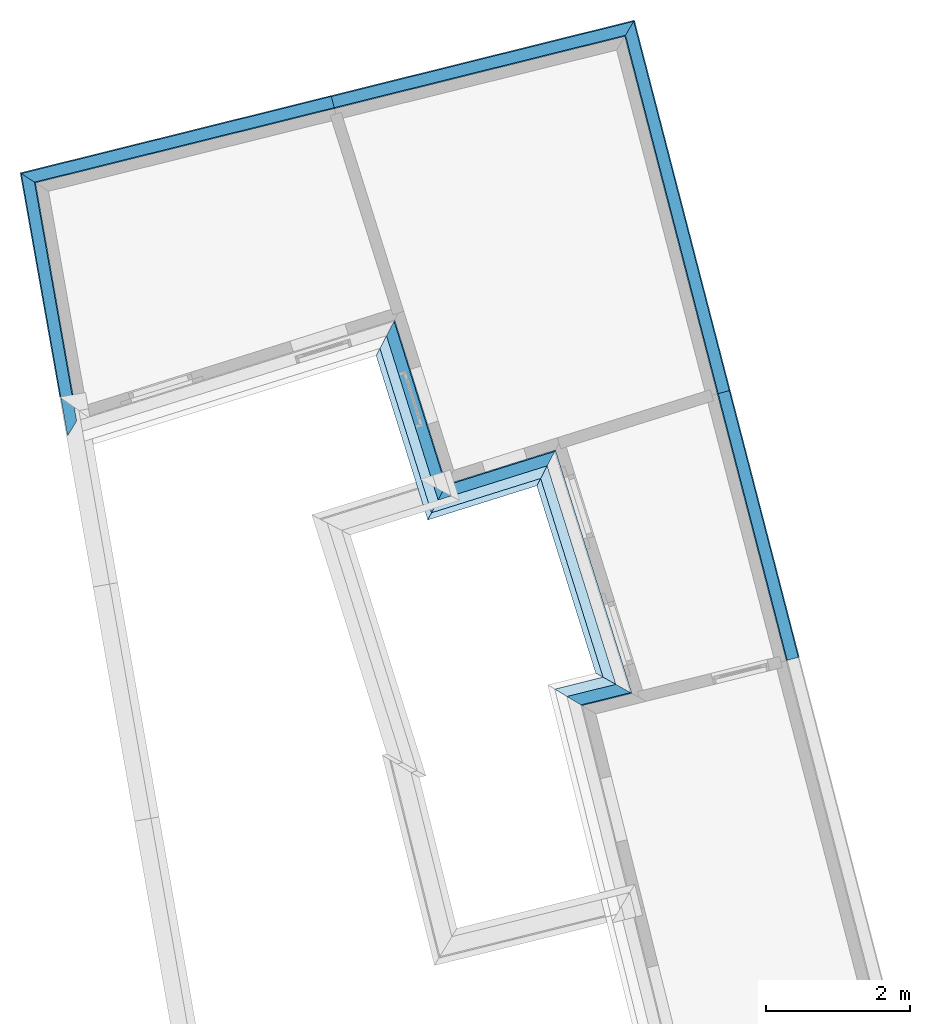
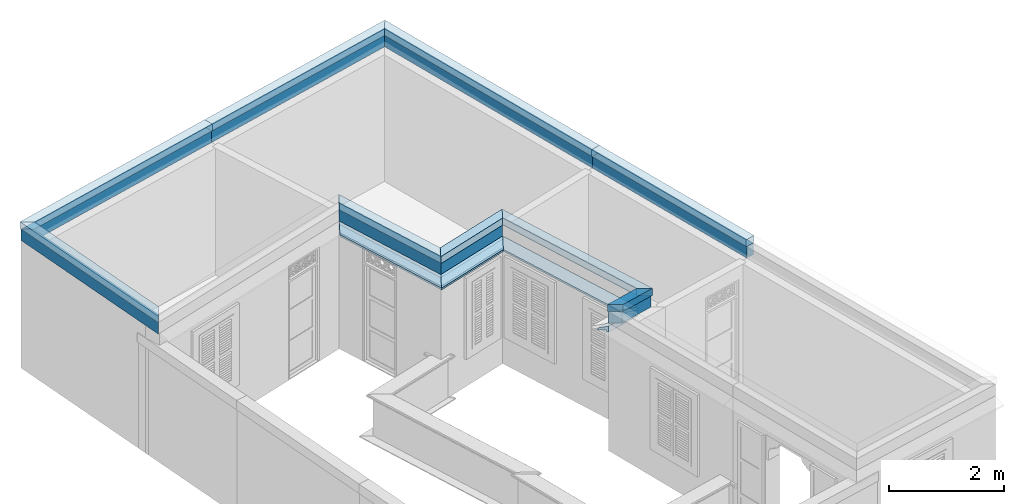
# One storey, part 12 of 13: 24 roofs.
"""IFC4 building model written with IfcOpenShell, lengths in metres."""

from ifc_helpers import new_model, si_unit, frame, origin_with_axes, place, context, subcontext, project, spatial, polyline, outline, extrude, clip, halfspace, material_profile, profile_set, profile_usage, type_object, element, save


model = new_model("IFC4")

# Units and contexts
model_context = context("Model", 3, world=origin_with_axes())
body_context = subcontext(model_context, "Body", "Model", "MODEL_VIEW")
ifc_project = project(units=[si_unit("PLANEANGLEUNIT", "RADIAN"), si_unit("MASSUNIT", "GRAM", prefix="KILO"), si_unit("FORCEUNIT", "NEWTON", prefix="KILO"), si_unit("LENGTHUNIT", "METRE"), si_unit("AREAUNIT", "SQUARE_METRE"), si_unit("VOLUMEUNIT", "CUBIC_METRE")], contexts=[model_context, model_context])

# Site, building, storey
site_placement = place(None, origin_with_axes())
site = spatial("IfcSite", under=ifc_project, at=site_placement, Name="Site plot-0", CompositionType="ELEMENT")
building_placement = place(None, origin_with_axes())
building = spatial("IfcBuilding", under=site, at=building_placement, Name="Building plot-0", CompositionType="ELEMENT")
storey_placement = place(None, frame((0.0, 0.0, 3.6), z_axis=(0.0, 0.0, 1.0), x_axis=(1.0, 0.0, 0.0)))
storey = spatial("IfcBuildingStorey", under=building, at=storey_placement, Name="plot-0 1", CompositionType="ELEMENT", Elevation=3.6)

# Roofs
ifc_material_profile_1 = material_profile(None, outline(polyline([(0.25, 0.0), (0.25, 0.245), (0.09, 0.245), (0.09, 0.0), (0.25, 0.0)])))
ifc_profile_set_1 = profile_set([ifc_material_profile_1])
ifc_profile_usage_1 = profile_usage(ifc_profile_set_1)
roof_type_1 = type_object("IfcRoofType", Name="roofline_0", PredefinedType="FREEFORM", material=ifc_profile_set_1)
roof_1_placement = place(storey_placement, frame((8.20839688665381, 11.4041812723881, 2.7), z_axis=(0.250522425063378, -0.968110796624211, 0.0), x_axis=(0.968110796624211, 0.250522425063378, 0.0)))
element("IfcRoof", 1, at=roof_1_placement, inside=storey, type_object=roof_type_1, material=ifc_profile_usage_1, Name="roofline_0", context=body_context, shape_type="Clipping", body=[
    clip(clip(extrude(outline(polyline([(0.25, 0.0), (0.25, 0.245), (0.09, 0.245), (0.09, 0.0), (0.25, 0.0)])), origin_with_axes(), (0.0, 0.0, 1.0), 5.82113603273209), halfspace(frame((0.0, 0.0, 4.82113603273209), z_axis=(5.48988278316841e-15, 0.0, -1.0), x_axis=(0.0, 1.0, 0.0)), True)), halfspace(frame((0.0, 0.0, 1.0), z_axis=(-2.83276944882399e-16, 0.0, -1.0), x_axis=(0.0, 1.0, 0.0)), False)),
])
ifc_profile_usage_2 = profile_usage(ifc_profile_set_1)
roof_2_placement = place(storey_placement, frame((6.94477119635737, 16.2872957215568, 2.7), z_axis=(0.250522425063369, -0.968110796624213, 0.0), x_axis=(0.968110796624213, 0.250522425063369, 0.0)))
element("IfcRoof", 2, at=roof_2_placement, inside=storey, type_object=roof_type_1, material=ifc_profile_usage_2, Name="roofline_0", context=body_context, shape_type="Clipping", body=[
    clip(clip(extrude(outline(polyline([(0.25, 0.0), (0.25, 0.245), (0.09, 0.245), (0.09, 0.0), (0.25, 0.0)])), origin_with_axes(), (0.0, 0.0, 1.0), 7.04396239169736), halfspace(frame((0.0, 0.0, 6.04396239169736), z_axis=(-1.00532395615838e-14, 0.0, -1.0), x_axis=(0.0, 1.0, 0.0)), True)), halfspace(frame((0.0, 0.0, 1.0), z_axis=(-0.703703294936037, 0.0, -0.710493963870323), x_axis=(0.0, 1.0, 0.0)), False)),
])
ifc_profile_usage_3 = profile_usage(ifc_profile_set_1)
roof_3_placement = place(storey_placement, frame((2.27129741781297, 14.0953106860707, 2.7), z_axis=(0.970472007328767, 0.241213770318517, 0.0), x_axis=(-0.241213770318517, 0.970472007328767, 0.0)))
element("IfcRoof", 3, at=roof_3_placement, inside=storey, type_object=roof_type_1, material=ifc_profile_usage_3, Name="roofline_0", context=body_context, shape_type="Clipping", body=[
    clip(clip(extrude(outline(polyline([(0.25, 0.0), (0.25, 0.245), (0.09, 0.245), (0.09, 0.0), (0.25, 0.0)])), origin_with_axes(), (0.0, 0.0, 1.0), 6.07381579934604), halfspace(frame((0.0, 0.0, 5.07381579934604), z_axis=(0.703703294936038, 0.0, -0.710493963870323), x_axis=(0.0, 1.0, 0.0)), True)), halfspace(frame((0.0, 0.0, 1.0), z_axis=(-6.12323399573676e-17, 0.0, -1.0), x_axis=(0.0, 1.0, 0.0)), False)),
])
ifc_profile_usage_4 = profile_usage(ifc_profile_set_1)
roof_4_placement = place(storey_placement, frame((-1.80367384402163, 13.0824641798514, 2.7), z_axis=(0.970472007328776, 0.241213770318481, 0.0), x_axis=(-0.241213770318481, 0.970472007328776, 0.0)))
element("IfcRoof", 4, at=roof_4_placement, inside=storey, type_object=roof_type_1, material=ifc_profile_usage_4, Name="roofline_0", context=body_context, shape_type="Clipping", body=[
    clip(clip(extrude(outline(polyline([(0.25, 0.0), (0.25, 0.245), (0.09, 0.245), (0.09, 0.0), (0.25, 0.0)])), origin_with_axes(), (0.0, 0.0, 1.0), 6.19895806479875), halfspace(frame((0.0, 0.0, 5.19895806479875), z_axis=(-3.64765475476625e-14, 0.0, -1.0), x_axis=(0.0, 1.0, 0.0)), True)), halfspace(frame((0.0, 0.0, 1.0), z_axis=(-0.682400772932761, 0.0, -0.730978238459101), x_axis=(0.0, 1.0, 0.0)), False)),
])
ifc_profile_usage_5 = profile_usage(ifc_profile_set_1)
roof_5_placement = place(storey_placement, frame((-0.106295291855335, 9.21011102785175, 2.7), z_axis=(-0.174013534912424, 0.984743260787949, 0.0), x_axis=(-0.984743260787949, -0.174013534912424, 0.0)))
element("IfcRoof", 5, at=roof_5_placement, inside=storey, type_object=roof_type_1, material=ifc_profile_usage_5, Name="roofline_0", context=body_context, shape_type="Clipping", body=[
    clip(clip(extrude(outline(polyline([(0.25, 0.0), (0.25, 0.245), (0.09, 0.245), (0.09, 0.0), (0.25, 0.0)])), origin_with_axes(), (0.0, 0.0, 1.0), 5.17729888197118), halfspace(frame((0.0, 0.0, 4.17729888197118), z_axis=(0.682400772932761, 0.0, -0.730978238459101), x_axis=(0.0, 1.0, 0.0)), True)), halfspace(frame((0.0, 0.0, 1.0), z_axis=(-0.7513781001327, 0.0, -0.659871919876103), x_axis=(0.0, 1.0, 0.0)), False)),
])
ifc_profile_usage_6 = profile_usage(ifc_profile_set_1)
roof_6_placement = place(storey_placement, frame((5.12548905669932, 8.340623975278, 2.7), z_axis=(-0.299724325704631, 0.954025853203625, 0.0), x_axis=(-0.954025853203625, -0.299724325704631, 0.0)))
element("IfcRoof", 6, at=roof_6_placement, inside=storey, type_object=roof_type_1, material=ifc_profile_usage_6, Name="roofline_0", context=body_context, shape_type="Clipping", body=[
    clip(clip(extrude(outline(polyline([(0.25, 0.0), (0.25, 0.245), (0.09, 0.245), (0.09, 0.0), (0.25, 0.0)])), origin_with_axes(), (0.0, 0.0, 1.0), 4.38923278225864), halfspace(frame((0.0, 0.0, 3.38923278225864), z_axis=(-0.70710678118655, 0.0, -0.707106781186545), x_axis=(0.0, 1.0, 0.0)), True)), halfspace(frame((0.0, 0.0, 1.0), z_axis=(-0.707106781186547, 0.0, -0.707106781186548), x_axis=(0.0, 1.0, 0.0)), False)),
])
ifc_profile_usage_7 = profile_usage(ifc_profile_set_1)
roof_7_placement = place(storey_placement, frame((7.29246888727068, 10.0696091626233, 2.7), z_axis=(-0.954025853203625, -0.299724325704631, 0.0), x_axis=(0.299724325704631, -0.954025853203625, 0.0)))
element("IfcRoof", 7, at=roof_7_placement, inside=storey, type_object=roof_type_1, material=ifc_profile_usage_7, Name="roofline_0", context=body_context, shape_type="Clipping", body=[
    clip(clip(extrude(outline(polyline([(0.25, 0.0), (0.25, 0.245), (0.09, 0.245), (0.09, 0.0), (0.25, 0.0)])), origin_with_axes(), (0.0, 0.0, 1.0), 3.58557370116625), halfspace(frame((0.0, 0.0, 2.58557370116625), z_axis=(0.707106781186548, 0.0, -0.707106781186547), x_axis=(0.0, 1.0, 0.0)), True)), halfspace(frame((0.0, 0.0, 1.0), z_axis=(0.707106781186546, 0.0, -0.707106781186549), x_axis=(0.0, 1.0, 0.0)), False)),
])
ifc_profile_usage_8 = profile_usage(ifc_profile_set_1)
roof_8_placement = place(storey_placement, frame((5.78188949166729, 5.83346859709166, 2.7), z_axis=(0.970472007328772, 0.241213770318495, 0.0), x_axis=(-0.241213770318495, 0.970472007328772, 0.0)))
element("IfcRoof", 8, at=roof_8_placement, inside=storey, type_object=roof_type_1, material=ifc_profile_usage_8, Name="roofline_0", context=body_context, shape_type="Clipping", body=[
    clip(clip(extrude(outline(polyline([(0.25, 0.0), (0.25, 0.245), (0.09, 0.245), (0.09, 0.0), (0.25, 0.0)])), origin_with_axes(), (0.0, 0.0, 1.0), 2.71397184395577), halfspace(frame((0.0, 0.0, 1.71397184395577), z_axis=(-0.728268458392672, 0.0, -0.68529194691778), x_axis=(0.0, 1.0, 0.0)), True)), halfspace(frame((0.0, 0.0, 1.0), z_axis=(-0.707106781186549, 0.0, -0.707106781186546), x_axis=(0.0, 1.0, 0.0)), False)),
])
ifc_material_profile_2 = material_profile(None, outline(polyline([(0.265, 0.245), (0.265, 0.395), (0.075, 0.395), (0.075, 0.245), (0.265, 0.245)])))
ifc_profile_set_2 = profile_set([ifc_material_profile_2])
ifc_profile_usage_9 = profile_usage(ifc_profile_set_2)
roof_type_2 = type_object("IfcRoofType", Name="roofline_1", PredefinedType="FREEFORM", material=ifc_profile_set_2)
roof_9_placement = place(storey_placement, frame((8.20839688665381, 11.4041812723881, 2.7), z_axis=(0.250522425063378, -0.968110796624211, 0.0), x_axis=(0.968110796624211, 0.250522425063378, 0.0)))
element("IfcRoof", 9, at=roof_9_placement, inside=storey, type_object=roof_type_2, material=ifc_profile_usage_9, Name="roofline_1", context=body_context, shape_type="Clipping", body=[
    clip(clip(extrude(outline(polyline([(0.265, 0.245), (0.265, 0.395), (0.075, 0.395), (0.075, 0.245), (0.265, 0.245)])), origin_with_axes(), (0.0, 0.0, 1.0), 5.82113603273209), halfspace(frame((0.0, 0.0, 4.82113603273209), z_axis=(5.48988278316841e-15, 0.0, -1.0), x_axis=(0.0, 1.0, 0.0)), True)), halfspace(frame((0.0, 0.0, 1.0), z_axis=(-2.83276944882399e-16, 0.0, -1.0), x_axis=(0.0, 1.0, 0.0)), False)),
])
ifc_profile_usage_10 = profile_usage(ifc_profile_set_2)
roof_10_placement = place(storey_placement, frame((6.94477119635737, 16.2872957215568, 2.7), z_axis=(0.250522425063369, -0.968110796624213, 0.0), x_axis=(0.968110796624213, 0.250522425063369, 0.0)))
element("IfcRoof", 10, at=roof_10_placement, inside=storey, type_object=roof_type_2, material=ifc_profile_usage_10, Name="roofline_1", context=body_context, shape_type="Clipping", body=[
    clip(clip(extrude(outline(polyline([(0.265, 0.245), (0.265, 0.395), (0.075, 0.395), (0.075, 0.245), (0.265, 0.245)])), origin_with_axes(), (0.0, 0.0, 1.0), 7.04396239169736), halfspace(frame((0.0, 0.0, 6.04396239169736), z_axis=(-1.00532395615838e-14, 0.0, -1.0), x_axis=(0.0, 1.0, 0.0)), True)), halfspace(frame((0.0, 0.0, 1.0), z_axis=(-0.703703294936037, 0.0, -0.710493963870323), x_axis=(0.0, 1.0, 0.0)), False)),
])
ifc_profile_usage_11 = profile_usage(ifc_profile_set_2)
roof_11_placement = place(storey_placement, frame((2.27129741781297, 14.0953106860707, 2.7), z_axis=(0.970472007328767, 0.241213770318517, 0.0), x_axis=(-0.241213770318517, 0.970472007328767, 0.0)))
element("IfcRoof", 11, at=roof_11_placement, inside=storey, type_object=roof_type_2, material=ifc_profile_usage_11, Name="roofline_1", context=body_context, shape_type="Clipping", body=[
    clip(clip(extrude(outline(polyline([(0.265, 0.245), (0.265, 0.395), (0.075, 0.395), (0.075, 0.245), (0.265, 0.245)])), origin_with_axes(), (0.0, 0.0, 1.0), 6.07381579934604), halfspace(frame((0.0, 0.0, 5.07381579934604), z_axis=(0.703703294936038, 0.0, -0.710493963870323), x_axis=(0.0, 1.0, 0.0)), True)), halfspace(frame((0.0, 0.0, 1.0), z_axis=(-6.12323399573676e-17, 0.0, -1.0), x_axis=(0.0, 1.0, 0.0)), False)),
])
ifc_profile_usage_12 = profile_usage(ifc_profile_set_2)
roof_12_placement = place(storey_placement, frame((-1.80367384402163, 13.0824641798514, 2.7), z_axis=(0.970472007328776, 0.241213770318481, 0.0), x_axis=(-0.241213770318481, 0.970472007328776, 0.0)))
element("IfcRoof", 12, at=roof_12_placement, inside=storey, type_object=roof_type_2, material=ifc_profile_usage_12, Name="roofline_1", context=body_context, shape_type="Clipping", body=[
    clip(clip(extrude(outline(polyline([(0.265, 0.245), (0.265, 0.395), (0.075, 0.395), (0.075, 0.245), (0.265, 0.245)])), origin_with_axes(), (0.0, 0.0, 1.0), 6.19895806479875), halfspace(frame((0.0, 0.0, 5.19895806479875), z_axis=(-3.64765475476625e-14, 0.0, -1.0), x_axis=(0.0, 1.0, 0.0)), True)), halfspace(frame((0.0, 0.0, 1.0), z_axis=(-0.682400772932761, 0.0, -0.730978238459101), x_axis=(0.0, 1.0, 0.0)), False)),
])
ifc_profile_usage_13 = profile_usage(ifc_profile_set_2)
roof_13_placement = place(storey_placement, frame((-0.106295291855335, 9.21011102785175, 2.7), z_axis=(-0.174013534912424, 0.984743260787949, 0.0), x_axis=(-0.984743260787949, -0.174013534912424, 0.0)))
element("IfcRoof", 13, at=roof_13_placement, inside=storey, type_object=roof_type_2, material=ifc_profile_usage_13, Name="roofline_1", context=body_context, shape_type="Clipping", body=[
    clip(clip(extrude(outline(polyline([(0.265, 0.245), (0.265, 0.395), (0.075, 0.395), (0.075, 0.245), (0.265, 0.245)])), origin_with_axes(), (0.0, 0.0, 1.0), 5.17729888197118), halfspace(frame((0.0, 0.0, 4.17729888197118), z_axis=(0.682400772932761, 0.0, -0.730978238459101), x_axis=(0.0, 1.0, 0.0)), True)), halfspace(frame((0.0, 0.0, 1.0), z_axis=(-0.7513781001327, 0.0, -0.659871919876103), x_axis=(0.0, 1.0, 0.0)), False)),
])
ifc_profile_usage_14 = profile_usage(ifc_profile_set_2)
roof_14_placement = place(storey_placement, frame((5.12548905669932, 8.340623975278, 2.7), z_axis=(-0.299724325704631, 0.954025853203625, 0.0), x_axis=(-0.954025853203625, -0.299724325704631, 0.0)))
element("IfcRoof", 14, at=roof_14_placement, inside=storey, type_object=roof_type_2, material=ifc_profile_usage_14, Name="roofline_1", context=body_context, shape_type="Clipping", body=[
    clip(clip(extrude(outline(polyline([(0.265, 0.245), (0.265, 0.395), (0.075, 0.395), (0.075, 0.245), (0.265, 0.245)])), origin_with_axes(), (0.0, 0.0, 1.0), 4.38923278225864), halfspace(frame((0.0, 0.0, 3.38923278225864), z_axis=(-0.70710678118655, 0.0, -0.707106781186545), x_axis=(0.0, 1.0, 0.0)), True)), halfspace(frame((0.0, 0.0, 1.0), z_axis=(-0.707106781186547, 0.0, -0.707106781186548), x_axis=(0.0, 1.0, 0.0)), False)),
])
ifc_profile_usage_15 = profile_usage(ifc_profile_set_2)
roof_15_placement = place(storey_placement, frame((7.29246888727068, 10.0696091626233, 2.7), z_axis=(-0.954025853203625, -0.299724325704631, 0.0), x_axis=(0.299724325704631, -0.954025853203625, 0.0)))
element("IfcRoof", 15, at=roof_15_placement, inside=storey, type_object=roof_type_2, material=ifc_profile_usage_15, Name="roofline_1", context=body_context, shape_type="Clipping", body=[
    clip(clip(extrude(outline(polyline([(0.265, 0.245), (0.265, 0.395), (0.075, 0.395), (0.075, 0.245), (0.265, 0.245)])), origin_with_axes(), (0.0, 0.0, 1.0), 3.58557370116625), halfspace(frame((0.0, 0.0, 2.58557370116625), z_axis=(0.707106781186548, 0.0, -0.707106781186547), x_axis=(0.0, 1.0, 0.0)), True)), halfspace(frame((0.0, 0.0, 1.0), z_axis=(0.707106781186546, 0.0, -0.707106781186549), x_axis=(0.0, 1.0, 0.0)), False)),
])
ifc_profile_usage_16 = profile_usage(ifc_profile_set_2)
roof_16_placement = place(storey_placement, frame((7.74497551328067, 5.29287635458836, 2.7), z_axis=(-0.299724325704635, 0.954025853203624, 0.0), x_axis=(-0.954025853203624, -0.299724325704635, 0.0)))
element("IfcRoof", 16, at=roof_16_placement, inside=storey, type_object=roof_type_2, material=ifc_profile_usage_16, Name="roofline_1", context=body_context, shape_type="Clipping", body=[
    clip(clip(extrude(outline(polyline([(0.265, 0.245), (0.265, 0.395), (0.075, 0.395), (0.075, 0.245), (0.265, 0.245)])), origin_with_axes(), (0.0, 0.0, 1.0), 5.69275383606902), halfspace(frame((0.0, 0.0, 4.69275383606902), z_axis=(-0.707106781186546, 0.0, -0.707106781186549), x_axis=(0.0, 1.0, 0.0)), True)), halfspace(frame((0.0, 0.0, 1.0), z_axis=(0.72826845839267, 0.0, -0.685291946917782), x_axis=(0.0, 1.0, 0.0)), False)),
])
ifc_profile_usage_17 = profile_usage(ifc_profile_set_2)
roof_17_placement = place(storey_placement, frame((5.78188949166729, 5.83346859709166, 2.7), z_axis=(0.970472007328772, 0.241213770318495, 0.0), x_axis=(-0.241213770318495, 0.970472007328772, 0.0)))
element("IfcRoof", 17, at=roof_17_placement, inside=storey, type_object=roof_type_2, material=ifc_profile_usage_17, Name="roofline_1", context=body_context, shape_type="Clipping", body=[
    clip(clip(extrude(outline(polyline([(0.265, 0.245), (0.265, 0.395), (0.075, 0.395), (0.075, 0.245), (0.265, 0.245)])), origin_with_axes(), (0.0, 0.0, 1.0), 2.71397184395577), halfspace(frame((0.0, 0.0, 1.71397184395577), z_axis=(-0.728268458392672, 0.0, -0.68529194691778), x_axis=(0.0, 1.0, 0.0)), True)), halfspace(frame((0.0, 0.0, 1.0), z_axis=(-0.707106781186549, 0.0, -0.707106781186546), x_axis=(0.0, 1.0, 0.0)), False)),
])
ifc_material_profile_3 = material_profile(None, outline(polyline([(0.25, -0.19), (0.275, -0.19), (0.275, -0.15), (0.39, -0.15), (0.39, -0.107509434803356), (0.25, -0.0629639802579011), (0.25, -0.19)])))
ifc_profile_set_3 = profile_set([ifc_material_profile_3])
ifc_profile_usage_18 = profile_usage(ifc_profile_set_3)
roof_type_3 = type_object("IfcRoofType", Name="eaves_0", PredefinedType="FREEFORM", material=ifc_profile_set_3)
roof_18_placement = place(storey_placement, frame((5.12548905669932, 8.340623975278, 2.7), z_axis=(-0.299724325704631, 0.954025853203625, 0.0), x_axis=(-0.954025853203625, -0.299724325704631, 0.0)))
element("IfcRoof", 18, at=roof_18_placement, inside=storey, type_object=roof_type_3, material=ifc_profile_usage_18, Name="eaves_0", context=body_context, shape_type="Clipping", body=[
    clip(clip(extrude(outline(polyline([(0.25, -0.19), (0.275, -0.19), (0.275, -0.15), (0.39, -0.15), (0.39, -0.107509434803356), (0.25, -0.0629639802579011), (0.25, -0.19)])), origin_with_axes(), (0.0, 0.0, 1.0), 4.38923278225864), halfspace(frame((0.0, 0.0, 3.38923278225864), z_axis=(-0.70710678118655, 0.0, -0.707106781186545), x_axis=(0.0, 1.0, 0.0)), True)), halfspace(frame((0.0, 0.0, 1.0), z_axis=(-0.707106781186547, 0.0, -0.707106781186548), x_axis=(0.0, 1.0, 0.0)), False)),
])
ifc_profile_usage_19 = profile_usage(ifc_profile_set_3)
roof_19_placement = place(storey_placement, frame((7.29246888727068, 10.0696091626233, 2.7), z_axis=(-0.954025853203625, -0.299724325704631, 0.0), x_axis=(0.299724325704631, -0.954025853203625, 0.0)))
element("IfcRoof", 19, at=roof_19_placement, inside=storey, type_object=roof_type_3, material=ifc_profile_usage_19, Name="eaves_0", context=body_context, shape_type="Clipping", body=[
    clip(clip(extrude(outline(polyline([(0.25, -0.19), (0.275, -0.19), (0.275, -0.15), (0.39, -0.15), (0.39, -0.107509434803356), (0.25, -0.0629639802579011), (0.25, -0.19)])), origin_with_axes(), (0.0, 0.0, 1.0), 3.58557370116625), halfspace(frame((0.0, 0.0, 2.58557370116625), z_axis=(0.707106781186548, 0.0, -0.707106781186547), x_axis=(0.0, 1.0, 0.0)), True)), halfspace(frame((0.0, 0.0, 1.0), z_axis=(0.707106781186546, 0.0, -0.707106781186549), x_axis=(0.0, 1.0, 0.0)), False)),
])
ifc_profile_usage_20 = profile_usage(ifc_profile_set_3)
roof_20_placement = place(storey_placement, frame((7.74497551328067, 5.29287635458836, 2.7), z_axis=(-0.299724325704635, 0.954025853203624, 0.0), x_axis=(-0.954025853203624, -0.299724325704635, 0.0)))
element("IfcRoof", 20, at=roof_20_placement, inside=storey, type_object=roof_type_3, material=ifc_profile_usage_20, Name="eaves_0", context=body_context, shape_type="Clipping", body=[
    clip(clip(extrude(outline(polyline([(0.25, -0.19), (0.275, -0.19), (0.275, -0.15), (0.39, -0.15), (0.39, -0.107509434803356), (0.25, -0.0629639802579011), (0.25, -0.19)])), origin_with_axes(), (0.0, 0.0, 1.0), 5.69275383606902), halfspace(frame((0.0, 0.0, 4.69275383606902), z_axis=(-0.707106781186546, 0.0, -0.707106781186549), x_axis=(0.0, 1.0, 0.0)), True)), halfspace(frame((0.0, 0.0, 1.0), z_axis=(0.72826845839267, 0.0, -0.685291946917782), x_axis=(0.0, 1.0, 0.0)), False)),
])
ifc_profile_usage_21 = profile_usage(ifc_profile_set_3)
roof_21_placement = place(storey_placement, frame((5.78188949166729, 5.83346859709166, 2.7), z_axis=(0.970472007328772, 0.241213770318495, 0.0), x_axis=(-0.241213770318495, 0.970472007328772, 0.0)))
element("IfcRoof", 21, at=roof_21_placement, inside=storey, type_object=roof_type_3, material=ifc_profile_usage_21, Name="eaves_0", context=body_context, shape_type="Clipping", body=[
    clip(clip(extrude(outline(polyline([(0.25, -0.19), (0.275, -0.19), (0.275, -0.15), (0.39, -0.15), (0.39, -0.107509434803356), (0.25, -0.0629639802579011), (0.25, -0.19)])), origin_with_axes(), (0.0, 0.0, 1.0), 2.71397184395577), halfspace(frame((0.0, 0.0, 1.71397184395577), z_axis=(-0.728268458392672, 0.0, -0.68529194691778), x_axis=(0.0, 1.0, 0.0)), True)), halfspace(frame((0.0, 0.0, 1.0), z_axis=(-0.707106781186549, 0.0, -0.707106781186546), x_axis=(0.0, 1.0, 0.0)), False)),
])
ifc_material_profile_4 = material_profile(None, outline(polyline([(0.25, -0.0629639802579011), (0.451807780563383, -0.127175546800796), (0.47, -0.07), (0.25, 0.0), (0.25, -0.0629639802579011)])))
ifc_profile_set_4 = profile_set([ifc_material_profile_4])
ifc_profile_usage_22 = profile_usage(ifc_profile_set_4)
roof_type_4 = type_object("IfcRoofType", Name="eaves_1", PredefinedType="FREEFORM", material=ifc_profile_set_4)
roof_22_placement = place(storey_placement, frame((5.12548905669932, 8.340623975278, 2.7), z_axis=(-0.299724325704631, 0.954025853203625, 0.0), x_axis=(-0.954025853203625, -0.299724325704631, 0.0)))
element("IfcRoof", 22, at=roof_22_placement, inside=storey, type_object=roof_type_4, material=ifc_profile_usage_22, Name="eaves_1", context=body_context, shape_type="Clipping", body=[
    clip(clip(extrude(outline(polyline([(0.25, -0.0629639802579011), (0.451807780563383, -0.127175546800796), (0.47, -0.07), (0.25, 0.0), (0.25, -0.0629639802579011)])), origin_with_axes(), (0.0, 0.0, 1.0), 4.38923278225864), halfspace(frame((0.0, 0.0, 3.38923278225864), z_axis=(-0.70710678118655, 0.0, -0.707106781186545), x_axis=(0.0, 1.0, 0.0)), True)), halfspace(frame((0.0, 0.0, 1.0), z_axis=(-0.707106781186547, 0.0, -0.707106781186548), x_axis=(0.0, 1.0, 0.0)), False)),
])
ifc_profile_usage_23 = profile_usage(ifc_profile_set_4)
roof_23_placement = place(storey_placement, frame((7.29246888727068, 10.0696091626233, 2.7), z_axis=(-0.954025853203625, -0.299724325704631, 0.0), x_axis=(0.299724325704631, -0.954025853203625, 0.0)))
element("IfcRoof", 23, at=roof_23_placement, inside=storey, type_object=roof_type_4, material=ifc_profile_usage_23, Name="eaves_1", context=body_context, shape_type="Clipping", body=[
    clip(clip(extrude(outline(polyline([(0.25, -0.0629639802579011), (0.451807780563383, -0.127175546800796), (0.47, -0.07), (0.25, 0.0), (0.25, -0.0629639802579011)])), origin_with_axes(), (0.0, 0.0, 1.0), 3.58557370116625), halfspace(frame((0.0, 0.0, 2.58557370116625), z_axis=(0.707106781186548, 0.0, -0.707106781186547), x_axis=(0.0, 1.0, 0.0)), True)), halfspace(frame((0.0, 0.0, 1.0), z_axis=(0.707106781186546, 0.0, -0.707106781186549), x_axis=(0.0, 1.0, 0.0)), False)),
])
ifc_profile_usage_24 = profile_usage(ifc_profile_set_4)
roof_24_placement = place(storey_placement, frame((7.74497551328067, 5.29287635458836, 2.7), z_axis=(-0.299724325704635, 0.954025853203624, 0.0), x_axis=(-0.954025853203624, -0.299724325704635, 0.0)))
element("IfcRoof", 24, at=roof_24_placement, inside=storey, type_object=roof_type_4, material=ifc_profile_usage_24, Name="eaves_1", context=body_context, shape_type="Clipping", body=[
    clip(clip(extrude(outline(polyline([(0.25, -0.0629639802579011), (0.451807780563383, -0.127175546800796), (0.47, -0.07), (0.25, 0.0), (0.25, -0.0629639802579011)])), origin_with_axes(), (0.0, 0.0, 1.0), 5.69275383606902), halfspace(frame((0.0, 0.0, 4.69275383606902), z_axis=(-0.707106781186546, 0.0, -0.707106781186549), x_axis=(0.0, 1.0, 0.0)), True)), halfspace(frame((0.0, 0.0, 1.0), z_axis=(0.72826845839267, 0.0, -0.685291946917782), x_axis=(0.0, 1.0, 0.0)), False)),
])

save(model, "model.ifc")
